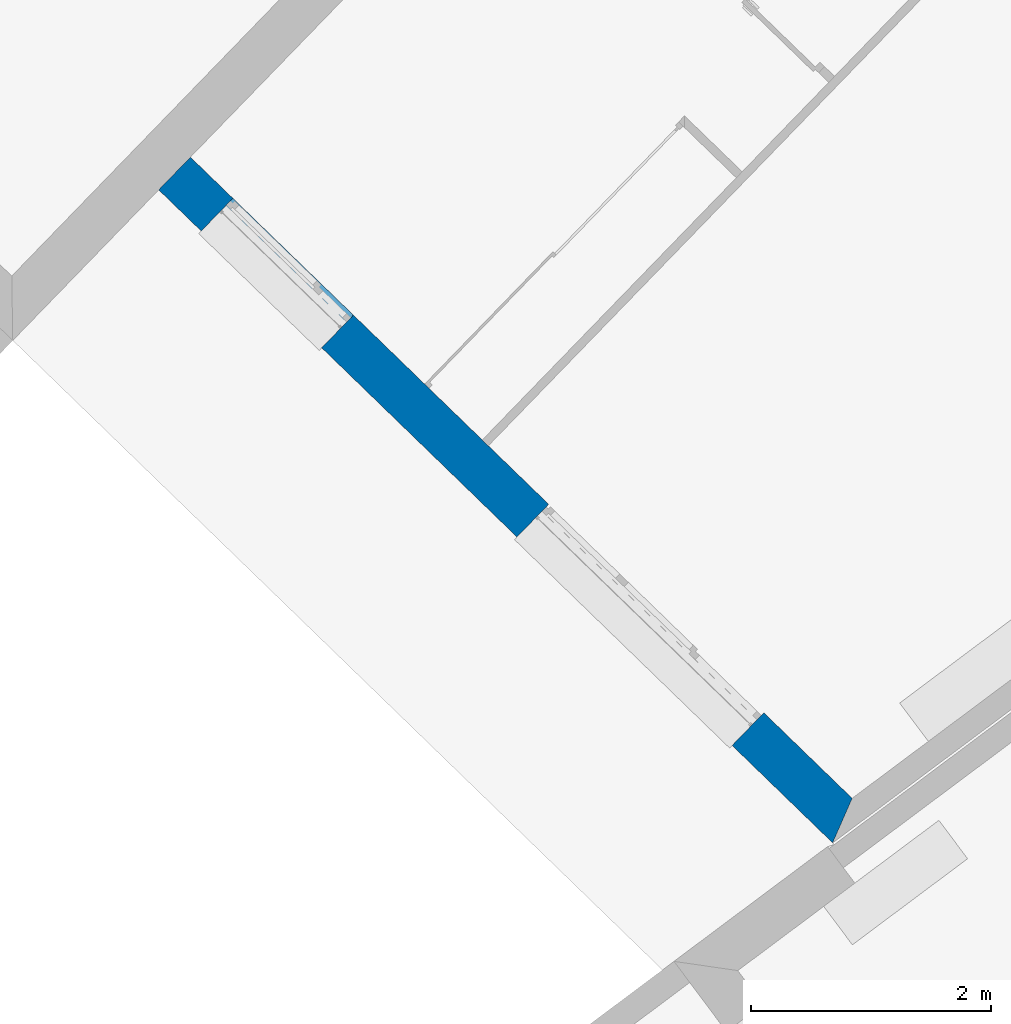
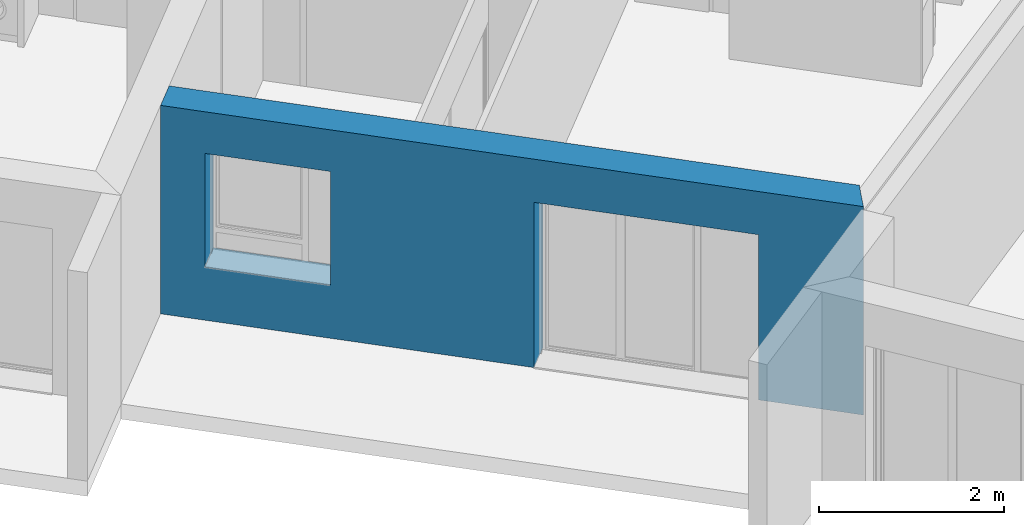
# One storey, part 2 of 195: 1 wall, 2 openings.
"""IFC2X3 building model written with IfcOpenShell, lengths in metres."""

import ifcopenshell
import ifcopenshell.guid

model = None  # the IFC model being written
_history = None  # IfcOwnerHistory: only IFC2X3 demands one
_inside = {}  # id of a spatial element -> (the spatial element, [elements in it])
_under = {}  # id of a project, library or spatial element -> (it, [spatial elements below it])
_declared = {}  # id of a project -> (the project, [libraries it declares])
_typed = {}  # id of a type object -> (the type object, [elements of that type])
_made_of = {}  # id of a material, layer set ... -> (it, [elements and type objects made of it])


def new_model(schema):
    """Start an empty IFC model of exactly this schema.

    Asked for "IFC4X3", IfcOpenShell would pick the latest addendum, in which some entities
    have other attributes; the version numbers below select the first issue.
    IFC2X3 requires an IfcOwnerHistory on every rooted entity: one is made here for all.
    """
    global model, _history
    if schema == "IFC4X3":
        model = ifcopenshell.file(schema_version=(4, 3, 0, 0))
    else:
        model = ifcopenshell.file(schema=schema)
    _inside.clear()
    _under.clear()
    _declared.clear()
    _typed.clear()
    _made_of.clear()
    _history = None
    if model.schema == "IFC2X3":
        org = make("IfcOrganization", Name="unknown")
        user = make(
            "IfcPersonAndOrganization",
            ThePerson=make("IfcPerson", FamilyName="unknown"),
            TheOrganization=org,
        )
        app = make(
            "IfcApplication",
            ApplicationDeveloper=org,
            Version="unknown",
            ApplicationFullName="unknown",
            ApplicationIdentifier="unknown",
        )
        _history = make(
            "IfcOwnerHistory",
            OwningUser=user,
            OwningApplication=app,
            ChangeAction="ADDED",
            CreationDate=0,
        )
    return model


def make(cls, **values):
    """One entity of the class cls with the attributes given. An attribute that is None is left unset."""
    return model.create_entity(
        cls, **{name: value for name, value in values.items() if value is not None}
    )


def entity(cls, *values):
    """Any entity or typed value of the class cls, its attributes in the order of the schema. None: left unset."""
    e = model.create_entity(cls)
    for i, value in enumerate(values):
        if value is not None:
            e[i] = value
    return e


def rooted(cls, **values):
    """An entity with a GlobalId (a new one), such as an element, a storey or a relation."""
    return make(cls, GlobalId=ifcopenshell.guid.new(), OwnerHistory=_history, **values)


def si_unit(unit_type, name, prefix=None):
    """IfcSIUnit, for example si_unit("LENGTHUNIT", "METRE", prefix="MILLI")."""
    return make("IfcSIUnit", UnitType=unit_type, Prefix=prefix, Name=name)


def converted_unit(unit_type, name, factor, base, dimensions=None, offset=None):
    """IfcConversionBasedUnit, such as the inch: factor (a typed value) times the base unit."""
    return make(
        "IfcConversionBasedUnit"
        if offset is None
        else "IfcConversionBasedUnitWithOffset",
        ConversionOffset=offset,
        Dimensions=None
        if dimensions is None
        else entity("IfcDimensionalExponents", *dimensions),
        UnitType=unit_type,
        Name=name,
        ConversionFactor=make(
            "IfcMeasureWithUnit", ValueComponent=factor, UnitComponent=base
        ),
    )


def derived_unit(unit_type, elements):
    """IfcDerivedUnit: a product of units, each with its exponent."""
    return make(
        "IfcDerivedUnit",
        Elements=[
            make("IfcDerivedUnitElement", Unit=unit, Exponent=power)
            for unit, power in elements
        ],
        UnitType=unit_type,
    )


def money_unit(currency):
    """IfcMonetaryUnit."""
    return make("IfcMonetaryUnit", Currency=currency)


def assignment(units):
    """IfcUnitAssignment: the units of a project."""
    return None if units is None else make("IfcUnitAssignment", Units=units)


def point(xyz):
    """IfcCartesianPoint."""
    return None if xyz is None else make("IfcCartesianPoint", Coordinates=xyz)


def direction(xyz):
    """IfcDirection."""
    return None if xyz is None else make("IfcDirection", DirectionRatios=xyz)


def frame(location, z_axis=None, x_axis=None):
    """IfcAxis2Placement3D, a coordinate frame: its origin and axes. An axis left out is left unset."""
    return make(
        "IfcAxis2Placement3D",
        Location=point(location),
        Axis=direction(z_axis),
        RefDirection=direction(x_axis),
    )


def origin_with_axes():
    """The frame at (0, 0, 0) with the z axis (0, 0, 1) and the x axis (1, 0, 0) written out."""
    return frame((0.0, 0.0, 0.0), z_axis=(0.0, 0.0, 1.0), x_axis=(1.0, 0.0, 0.0))


def place(relative_to, where):
    """IfcLocalPlacement: puts the frame where relative to a parent placement (None: the world)."""
    return make(
        "IfcLocalPlacement", PlacementRelTo=relative_to, RelativePlacement=where
    )


def context(
    kind, dimensions, precision=None, world=None, true_north=None, identifier=None
):
    """IfcGeometricRepresentationContext, for example the 3D "Model" context."""
    return make(
        "IfcGeometricRepresentationContext",
        ContextIdentifier=identifier,
        ContextType=kind,
        CoordinateSpaceDimension=dimensions,
        Precision=precision,
        WorldCoordinateSystem=world,
        TrueNorth=true_north,
    )


def subcontext(parent, identifier, kind, view, scale=None):
    """IfcGeometricRepresentationSubContext, for example "Body" below "Model"."""
    return make(
        "IfcGeometricRepresentationSubContext",
        ContextIdentifier=identifier,
        ContextType=kind,
        ParentContext=parent,
        TargetScale=scale,
        TargetView=view,
    )


def project(units=None, contexts=None):
    """IfcProject with its units and contexts."""
    return rooted(
        "IfcProject",
        Name="project",
        RepresentationContexts=contexts,
        UnitsInContext=assignment(units),
    )


def spatial(cls, under=None, at=None, **own):
    """A site, building, storey or space (cls), placed at a placement, below another one or the project."""
    s = rooted(cls, ObjectPlacement=at, **own)
    if under is not None:
        _under.setdefault(under.id(), (under, []))[1].append(s)
    return s


def polyline(points):
    """IfcPolyline through the points."""
    return make("IfcPolyline", Points=[point(p) for p in points])


def outline(outer, holes=None, kind="AREA"):
    """IfcArbitraryClosedProfileDef: a profile drawn as a closed curve; with holes, ...WithVoids."""
    if holes is None:
        return make("IfcArbitraryClosedProfileDef", ProfileType=kind, OuterCurve=outer)
    return make(
        "IfcArbitraryProfileDefWithVoids",
        ProfileType=kind,
        OuterCurve=outer,
        InnerCurves=holes,
    )


def extrude(swept, where, along, depth):
    """IfcExtrudedAreaSolid: the profile swept, set in the frame where, extruded along a direction by depth."""
    return make(
        "IfcExtrudedAreaSolid",
        SweptArea=swept,
        Position=where,
        ExtrudedDirection=direction(along),
        Depth=depth,
    )


def faces_of(points, faces, orient=None, outer=None):
    """IfcFace entities. A face is a list of loops; a loop is a list of indices into points, from 0.

    orient and outer hold one flag for each loop. By default every Orientation is true, the
    first loop of a face is its IfcFaceOuterBound and the others are IfcFaceBound.
    """
    made = []
    for i, loops in enumerate(faces):
        bounds = []
        for j, loop in enumerate(loops):
            is_outer = j == 0 if outer is None else outer[i][j]
            bounds.append(
                make(
                    "IfcFaceOuterBound" if is_outer else "IfcFaceBound",
                    Bound=make("IfcPolyLoop", Polygon=[points[k] for k in loop]),
                    Orientation=True if orient is None else orient[i][j],
                )
            )
        made.append(make("IfcFace", Bounds=bounds))
    return made


def faceted_brep(points, faces, orient=None, outer=None, voids=None):
    """IfcFacetedBrep: a solid bounded by flat faces; with voids (closed shells), ...WithVoids."""
    shared = [point(p) for p in points]
    hull = make("IfcClosedShell", CfsFaces=faces_of(shared, faces, orient, outer))
    if voids is None:
        return make("IfcFacetedBrep", Outer=hull)
    return make(
        "IfcFacetedBrepWithVoids",
        Outer=hull,
        Voids=[
            make(cls, CfsFaces=faces_of(shared, fs, o, b)) for cls, fs, o, b in voids
        ],
    )


def shape(context_of_items, identifier, shape_type, items):
    """IfcShapeRepresentation: the items that make up one representation, for example the "Body"."""
    return make(
        "IfcShapeRepresentation",
        ContextOfItems=context_of_items,
        RepresentationIdentifier=identifier,
        RepresentationType=shape_type,
        Items=items,
    )


def material(Name=None, Category=None):
    """IfcMaterial."""
    return make("IfcMaterial", Name=Name, Category=Category)


def layer(
    of_material, thickness, ventilated=None, Name=None, Category=None, Priority=None
):
    """IfcMaterialLayer: one layer of a wall or slab, of a material (None: an air gap)."""
    return make(
        "IfcMaterialLayer",
        Material=of_material,
        LayerThickness=thickness,
        IsVentilated=ventilated,
        Name=Name,
        Category=Category,
        Priority=Priority,
    )


def layer_set(layers, Name=None):
    """IfcMaterialLayerSet."""
    return make("IfcMaterialLayerSet", MaterialLayers=layers, LayerSetName=Name)


def layer_usage(for_layer_set, set_direction, sense, offset, extent=None):
    """IfcMaterialLayerSetUsage: how a layer set lies in its element."""
    return make(
        "IfcMaterialLayerSetUsage",
        ForLayerSet=for_layer_set,
        LayerSetDirection=set_direction,
        DirectionSense=sense,
        OffsetFromReferenceLine=offset,
        ReferenceExtent=extent,
    )


def made_of(thing, what):
    """Note that an element or type object is made of a material, layer set ...; save() writes the relation."""
    if what is not None:
        _made_of.setdefault(what.id(), (what, []))[1].append(thing)
    return thing


def type_object(cls, material=None, **own):
    """A type object (cls), such as IfcWallType, which elements share."""
    return made_of(rooted(cls, **own), material)


def element(
    cls,
    number,
    at=None,
    inside=None,
    cuts=None,
    type_object=None,
    material=None,
    context=None,
    identifier="Body",
    shape_type=None,
    held_by="IfcProductDefinitionShape",
    body=None,
    shapes=None,
    **own,
):
    """One element of the class cls, such as IfcWall. Its Tag is "e" and its number.

    at: its placement. inside: the storey or other place that contains it. cuts: it is an
    opening in that element (IfcRelVoidsElement). A single representation is given by context,
    identifier, shape_type and body (its items); several are given by shapes. held_by: the class
    of the entity that holds the representations. save() writes the other relations.
    """
    e = rooted(cls, Tag="e%d" % number, ObjectPlacement=at, **own)
    if body is not None:
        shapes = [shape(context, identifier, shape_type, body)]
    if shapes is not None:
        e.Representation = make(held_by, Representations=shapes)
    if inside is not None:
        _inside.setdefault(inside.id(), (inside, []))[1].append(e)
    if cuts is not None:
        rooted(
            "IfcRelVoidsElement", RelatingBuildingElement=cuts, RelatedOpeningElement=e
        )
    if type_object is not None:
        _typed.setdefault(type_object.id(), (type_object, []))[1].append(e)
    return made_of(e, material)


def aggregate(whole, parts):
    """IfcRelAggregates: a whole, such as a stair, and the parts it consists of."""
    return rooted("IfcRelAggregates", RelatingObject=whole, RelatedObjects=parts)


def save(model, path):
    """Write the relations noted so far, then the file.

    IfcRelAggregates (storeys below a building ...), IfcRelContainedInSpatialStructure (elements
    in a storey), IfcRelDefinesByType, IfcRelAssociatesMaterial and IfcRelDeclares: one each for
    every whole, place, type object, material and project.
    """
    for whole, parts in _under.values():
        aggregate(whole, parts)
    for where, things in _inside.values():
        rooted(
            "IfcRelContainedInSpatialStructure",
            RelatedElements=things,
            RelatingStructure=where,
        )
    for kind, things in _typed.values():
        rooted("IfcRelDefinesByType", RelatedObjects=things, RelatingType=kind)
    for what, things in _made_of.values():
        rooted("IfcRelAssociatesMaterial", RelatedObjects=things, RelatingMaterial=what)
    for by, libraries in _declared.values():
        rooted("IfcRelDeclares", RelatingContext=by, RelatedDefinitions=libraries)
    model.write(path)


model = new_model("IFC2X3")

# Units and contexts
model_context = context("Model", 3, precision=1e-05, world=origin_with_axes(), true_north=direction((0.0, 1.0)))
body_context = subcontext(model_context, "Body", "Model", "MODEL_VIEW")
ifc_project = project(units=[si_unit("LENGTHUNIT", "METRE"), si_unit("AREAUNIT", "SQUARE_METRE"), si_unit("VOLUMEUNIT", "CUBIC_METRE"), converted_unit("PLANEANGLEUNIT", "DEGREE", entity("IfcPlaneAngleMeasure", 0.0174532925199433), si_unit("PLANEANGLEUNIT", "RADIAN"), dimensions=[0, 0, 0, 0, 0, 0, 0]), money_unit("CHF"), converted_unit("TIMEUNIT", "Year", entity("IfcTimeMeasure", 31557600.0), si_unit("TIMEUNIT", "SECOND"), dimensions=[0, 0, 1, 0, 0, 0, 0]), si_unit("MASSUNIT", "GRAM", prefix="KILO"), si_unit("THERMODYNAMICTEMPERATUREUNIT", "DEGREE_CELSIUS"), si_unit("LUMINOUSINTENSITYUNIT", "LUMEN"), si_unit("ENERGYUNIT", "JOULE", prefix="MEGA"), derived_unit("THERMALCONDUCTANCEUNIT", [(si_unit("POWERUNIT", "WATT"), 1), (si_unit("LENGTHUNIT", "METRE"), -1), (si_unit("THERMODYNAMICTEMPERATUREUNIT", "KELVIN"), -1)]), derived_unit("SPECIFICHEATCAPACITYUNIT", [(si_unit("ENERGYUNIT", "JOULE"), 1), (si_unit("MASSUNIT", "GRAM", prefix="KILO"), -1), (si_unit("THERMODYNAMICTEMPERATUREUNIT", "KELVIN"), -1)]), derived_unit("MASSDENSITYUNIT", [(si_unit("MASSUNIT", "GRAM", prefix="KILO"), 1), (si_unit("VOLUMEUNIT", "CUBIC_METRE"), -1)])], contexts=[model_context])

# Site, building, storey
site_placement = place(None, origin_with_axes())
site = spatial("IfcSite", under=ifc_project, at=site_placement, Name="Site", CompositionType="ELEMENT")
building_placement = place(site_placement, origin_with_axes())
building = spatial("IfcBuilding", under=site, at=building_placement, Name="Bâtiment", CompositionType="ELEMENT")
storey_placement = place(building_placement, origin_with_axes())
storey = spatial("IfcBuildingStorey", under=building, at=storey_placement, Name="rdc", CompositionType="ELEMENT", Elevation=0.0)

# Wall, openings
ifc_material_1 = material(Name="Parpaing 312445824")
ifc_layer_1 = layer(ifc_material_1, 0.22, ventilated="UNKNOWN")
ifc_material_2 = material(Name="Isolant styromousse 301821074")
ifc_layer_2 = layer(ifc_material_2, 0.16, ventilated="UNKNOWN")
ifc_layer_set = layer_set([ifc_layer_1, ifc_layer_2], Name="isol int 22+16 0836643197")
ifc_layer_usage = layer_usage(ifc_layer_set, "AXIS2", "POSITIVE", 0.0)
wall_type = type_object("IfcWallType", Name="isol int 22+16 0836643197 380", PredefinedType="NOTDEFINED")
wall_placement = place(storey_placement, frame((9523.941571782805, -1070.182928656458, 57.7), z_axis=(0.0, 0.0, 1.0), x_axis=(0.71817639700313, -0.6958610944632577, 0.0)))
wall = element("IfcWallStandardCase", 1, at=wall_placement, inside=storey, type_object=wall_type, material=ifc_layer_usage, Name="Mur-113", context=body_context, shape_type="SweptSolid", body=[
    extrude(outline(polyline([(2.100932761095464e-10, 0.0), (7.831839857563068, 0.0), (7.690439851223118, 0.3799999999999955), (2.296474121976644e-10, 0.3799999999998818), (2.100932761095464e-10, 0.0)])), origin_with_axes(), (0.0, 0.0, 1.0), 2.75),
])
opening_1_placement = place(wall_placement, frame((1.194223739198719, 0.0, 0.7000000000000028), z_axis=(0.0, 0.0, 1.0), x_axis=(1.0, 0.0, 0.0)))
element("IfcOpeningElement", 2, at=opening_1_placement, cuts=wall, Name="Fen-045", context=body_context, shape_type="Brep", body=[
    faceted_brep([(-0.7000000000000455, 0.480000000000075, 1.5), (0.7000000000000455, 0.4800000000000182, 1.5), (0.7000000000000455, 4.193732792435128, 1.5), (-0.6999999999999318, 4.193732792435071, 1.5), (-0.7000000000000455, 0.480000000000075, 1.700000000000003), (0.7000000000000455, 0.4800000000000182, 1.700000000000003), (0.6999999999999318, 0.3000000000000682, 1.5), (0.7000000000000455, 0.3000000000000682, 0.0), (0.7000000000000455, 4.193732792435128, 0.0), (-0.6999999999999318, 4.193732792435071, 0.0), (-0.7000000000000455, 0.2999999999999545, 1.5), (-0.7000000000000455, 0.3000000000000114, 0.0), (-0.7000000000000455, 0.2200000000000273, 1.5), (-0.7000000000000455, 0.2200000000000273, 1.700000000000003), (0.7000000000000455, 0.2199999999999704, 1.700000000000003), (0.7000000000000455, 0.2199999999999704, 1.5), (0.7000000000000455, -3.813732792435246, 1.5), (0.7000000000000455, -3.813732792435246, 0.0), (-0.6999999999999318, -3.81373279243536, 0.0), (-0.6999999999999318, -3.81373279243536, 1.5)], [[[0, 1, 2, 3]], [[1, 0, 4, 5]], [[1, 6, 7, 8, 2]], [[2, 8, 9, 3]], [[10, 0, 3, 9, 11]], [[0, 10, 12, 13, 4]], [[14, 5, 4, 13]], [[6, 1, 5, 14, 15]], [[6, 15, 16, 17, 7]], [[7, 11, 9, 8]], [[12, 10, 11, 18, 19]], [[12, 15, 14, 13]], [[15, 12, 19, 16]], [[19, 18, 17, 16]], [[11, 7, 17, 18]]]),
])
opening_2_placement = place(wall_placement, frame((5.413572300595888, 0.0, 0.0), z_axis=(0.0, 0.0, 1.0), x_axis=(1.0, 0.0, 0.0)))
element("IfcOpeningElement", 3, at=opening_2_placement, cuts=wall, Name="Fen-045", context=body_context, shape_type="Brep", body=[
    faceted_brep([(-1.25, 0.4799999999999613, 2.18), (1.249999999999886, 0.4799999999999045, 2.18), (1.25, 4.193732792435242, 2.18), (-1.250000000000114, 4.193732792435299, 2.18), (-1.25, 0.4799999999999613, 2.380000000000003), (1.249999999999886, 0.4799999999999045, 2.380000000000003), (1.249999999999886, 0.2999999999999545, 2.18), (1.249999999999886, 0.2999999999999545, 0.0), (1.25, 4.193732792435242, 0.0), (-1.250000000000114, 4.193732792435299, 0.0), (-1.250000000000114, 0.3000000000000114, 2.18), (-1.250000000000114, 0.3000000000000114, 0.0), (-1.250000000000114, 0.2199999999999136, 2.18), (-1.250000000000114, 0.2199999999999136, 2.380000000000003), (1.249999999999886, 0.2199999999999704, 2.380000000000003), (1.249999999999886, 0.2199999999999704, 2.18), (1.249999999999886, -3.813732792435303, 2.18), (1.249999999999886, -3.813732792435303, 0.0), (-1.250000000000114, -3.813732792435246, 0.0), (-1.250000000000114, -3.813732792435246, 2.18)], [[[0, 1, 2, 3]], [[1, 0, 4, 5]], [[1, 6, 7, 8, 2]], [[2, 8, 9, 3]], [[10, 0, 3, 9, 11]], [[0, 10, 12, 13, 4]], [[14, 5, 4, 13]], [[6, 1, 5, 14, 15]], [[6, 15, 16, 17, 7]], [[7, 11, 9, 8]], [[12, 10, 11, 18, 19]], [[12, 15, 14, 13]], [[15, 12, 19, 16]], [[19, 18, 17, 16]], [[11, 7, 17, 18]]]),
])

save(model, "model.ifc")
